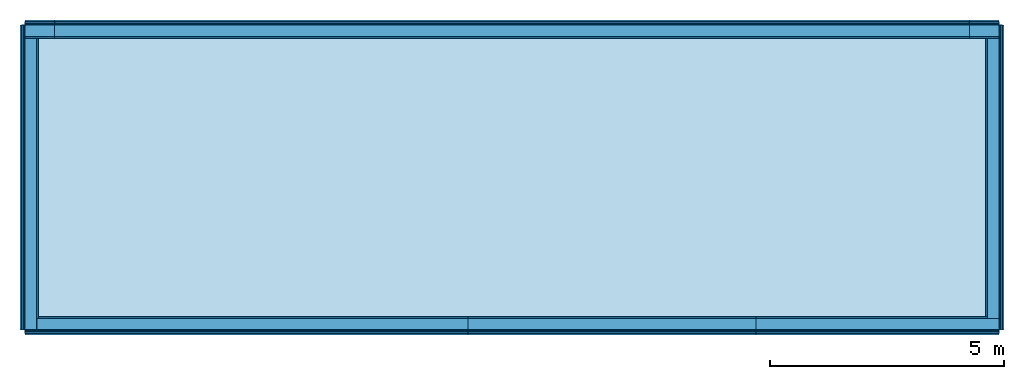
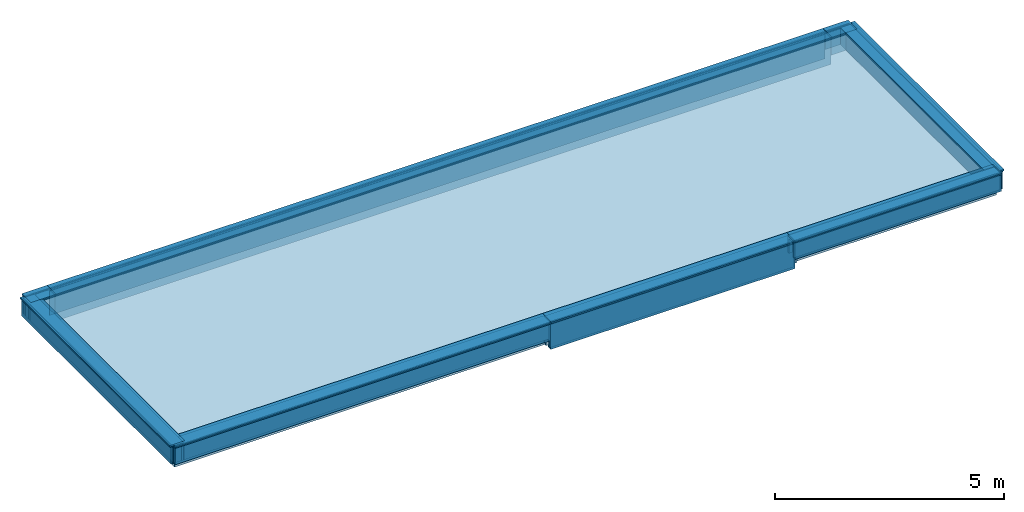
# One storey: 48 building element parts, 1 slab, 8 elements without a shape of their own.
"""IFC2X3 building model written with IfcOpenShell, lengths in millimetres."""

from ifc_helpers import new_model, entity, si_unit, converted_unit, money_unit, direction, frame, origin_with_axes, place, context, subcontext, project, spatial, polyline, outline, extrude, material, layer, layer_set, layer_usage, type_object, element, aggregate, save


model = new_model("IFC2X3")

# Units and contexts
model_context = context("Model", 3, precision=1e-05, world=origin_with_axes(), true_north=direction((0.0, 1.0)))
body_context = subcontext(model_context, "Body", "Model", "MODEL_VIEW")
ifc_project = project(units=[si_unit("LENGTHUNIT", "METRE", prefix="MILLI"), si_unit("AREAUNIT", "SQUARE_METRE"), si_unit("VOLUMEUNIT", "CUBIC_METRE"), converted_unit("PLANEANGLEUNIT", "DEGREE", entity("IfcPlaneAngleMeasure", 0.0174532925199), si_unit("PLANEANGLEUNIT", "RADIAN"), dimensions=[0, 0, 0, 0, 0, 0, 0]), si_unit("SOLIDANGLEUNIT", "STERADIAN"), money_unit("USD"), converted_unit("TIMEUNIT", "Year", entity("IfcTimeMeasure", 31556926.0), si_unit("TIMEUNIT", "SECOND"), dimensions=[0, 0, 0, 0, 0, 0, 0]), si_unit("MASSUNIT", "GRAM"), si_unit("THERMODYNAMICTEMPERATUREUNIT", "DEGREE_CELSIUS"), si_unit("LUMINOUSINTENSITYUNIT", "LUMEN")], contexts=[model_context])

# Site, building, storey
site_placement = place(None, origin_with_axes())
site = spatial("IfcSite", under=ifc_project, at=site_placement, Name="Grove Residential", CompositionType="ELEMENT")
building_placement = place(site_placement, origin_with_axes())
building = spatial("IfcBuilding", under=site, at=building_placement, Name="Building", CompositionType="ELEMENT")
storey_placement = place(building_placement, frame((0.0, 0.0, 6660.0), z_axis=(0.0, 0.0, 1.0), x_axis=(1.0, 0.0, 0.0)))
storey = spatial("IfcBuildingStorey", under=building, at=storey_placement, Name="Roof Level", CompositionType="ELEMENT", Elevation=6660.0)

# Slab
ifc_material_1 = material(Name="Gravel")
ifc_layer_1 = layer(ifc_material_1, 370.0, ventilated="UNKNOWN")
ifc_material_2 = material(Name="Screed")
ifc_layer_2 = layer(ifc_material_2, 50.0, ventilated="UNKNOWN")
ifc_material_3 = material(Name="Membrane - Rainproof")
ifc_layer_3 = layer(ifc_material_3, 10.0, ventilated="UNKNOWN")
ifc_material_4 = material(Name="Insulation - Plastic Soft")
ifc_layer_4 = layer(ifc_material_4, 50.0, ventilated="UNKNOWN")
ifc_material_5 = material(Name="Concrete - Structural")
ifc_layer_5 = layer(ifc_material_5, 100.0, ventilated="UNKNOWN")
ifc_layer_set = layer_set([ifc_layer_1, ifc_layer_2, ifc_layer_3, ifc_layer_4, ifc_layer_5], Name="IFS - 005")
ifc_layer_usage = layer_usage(ifc_layer_set, "AXIS3", "NEGATIVE", 580.0)
slab_type = type_object("IfcSlabType", Name="IFS - 005 580", PredefinedType="FLOOR")
slab_placement = place(storey_placement, frame((-8585.0, 1465.0, 370.0), z_axis=(0.0, 0.0, 1.0), x_axis=(1.0, 0.0, 0.0)))
element("IfcSlab", 1, at=slab_placement, inside=storey, type_object=slab_type, material=ifc_layer_usage, Name="SLA - 001", PredefinedType="FLOOR", context=body_context, shape_type="SweptSolid", body=[
    extrude(outline(polyline([(0.0, 0.0), (9335.0, 0.0), (9335.0, -50.0), (15660.0, -50.0), (15660.0, 0.0), (20720.0, 0.0), (20720.0, 6420.0), (0.0, 6420.0), (0.0, 0.0)])), frame((0.0, 0.0, -580.0), z_axis=(0.0, 0.0, 1.0), x_axis=(1.0, 0.0, 0.0)), (0.0, 0.0, 1.0), 580.0),
])

# Wall, building element parts
wall_type_1 = type_object("IfcWallType", Name="Parapet Wall 395 x 505", PredefinedType="NOTDEFINED")
wall_1_placement = place(storey_placement, frame((-8635.0, 7935.0, -60.0), z_axis=(0.0, 0.0, 1.0), x_axis=(1.0, 0.0, 0.0)))
wall_1 = element("IfcWall", 2, at=wall_1_placement, inside=storey, type_object=wall_type_1, Name="SW - 003")
ifc_material_6 = material(Name="Timber - Roof")
building_element_part_1_placement = place(wall_1_placement, origin_with_axes())
building_element_part_1 = element("IfcBuildingElementPart", 3, at=building_element_part_1_placement, material=ifc_material_6, Name="Timber - Roof", context=body_context, shape_type="SweptSolid", body=[
    extrude(outline(polyline([(-3.04764852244e-07, 455.0329326), (-3.04764852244e-07, 427.804075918), (25.0, 427.804075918), (25.0, 455.0329326), (-3.04764852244e-07, 455.0329326)])), frame((0.0, 0.0, 0.0), z_axis=(1.0, 0.0, 0.0), x_axis=(0.0, 1.0, 0.0)), (0.0, 0.0, 1.0), 635.0),
])
building_element_part_2_placement = place(wall_1_placement, origin_with_axes())
building_element_part_2 = element("IfcBuildingElementPart", 4, at=building_element_part_2_placement, material=ifc_material_4, Name="Insulation - Plastic Soft", context=body_context, shape_type="SweptSolid", body=[
    extrude(outline(polyline([(-250.0, 0.0), (-200.000001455, 0.0), (-200.000001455, 400.575220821), (-49.9999988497, 400.575220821), (-49.9999988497, 0.0), (-3.04764852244e-07, 0.0), (-3.04764852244e-07, 455.0329326), (-250.0, 455.0329326), (-250.0, 0.0)])), frame((0.0, 0.0, 0.0), z_axis=(1.0, 0.0, 0.0), x_axis=(0.0, 1.0, 0.0)), (0.0, 0.0, 1.0), 635.0),
])
ifc_material_7 = material(Name="Stone - Finish")
building_element_part_3_placement = place(wall_1_placement, origin_with_axes())
building_element_part_3 = element("IfcBuildingElementPart", 5, at=building_element_part_3_placement, material=ifc_material_7, Name="Stone - Finish", context=body_context, shape_type="SweptSolid", body=[
    extrude(outline(polyline([(104.999997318, 505.032931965), (-289.999999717, 505.032931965), (-289.999999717, 465.032934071), (-279.999999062, 465.032934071), (-279.999999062, 475.032934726), (-270.000003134, 475.032934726), (-270.000003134, 465.032934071), (84.9999960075, 465.032934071), (84.9999960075, 475.032934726), (94.9999966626, 475.032934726), (94.9999966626, 465.032934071), (104.999997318, 465.032934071), (104.999997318, 505.032931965)])), frame((0.0, 0.0, 0.0), z_axis=(1.0, 0.0, 0.0), x_axis=(0.0, 1.0, 0.0)), (0.0, 0.0, 1.0), 635.0),
])
building_element_part_4_placement = place(wall_1_placement, origin_with_axes())
building_element_part_4 = element("IfcBuildingElementPart", 6, at=building_element_part_4_placement, material=ifc_material_3, Name="Membrane - Rainproof", context=body_context, shape_type="SweptSolid", body=[
    extrude(outline(polyline([(74.9999937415, 465.032934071), (-260.000001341, 465.032934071), (-260.000001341, 0.0), (-250.0, 0.0), (-250.0, 455.0329326), (65.0, 455.0329326), (65.0, 444.141388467), (74.9999937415, 444.141388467), (74.9999937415, 465.032934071)])), frame((0.0, 0.0, 0.0), z_axis=(1.0, 0.0, 0.0), x_axis=(0.0, 1.0, 0.0)), (0.0, 0.0, 1.0), 635.0),
])
ifc_material_8 = material(Name="Timber - External Cladding")
building_element_part_5_placement = place(wall_1_placement, origin_with_axes())
building_element_part_5 = element("IfcBuildingElementPart", 7, at=building_element_part_5_placement, material=ifc_material_8, Name="Timber - External Cladding", context=body_context, shape_type="SweptSolid", body=[
    extrude(outline(polyline([(25.0, 0.0), (64.9999988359, 0.0), (64.9999848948, 455.0329326), (25.0, 455.0329326), (25.0, 0.0)])), frame((0.0, 0.0, 0.0), z_axis=(1.0, 0.0, 0.0), x_axis=(0.0, 1.0, 0.0)), (0.0, 0.0, 1.0), 635.0),
])
ifc_material_9 = material(Name="Air Space - Fixing Zone")
building_element_part_6_placement = place(wall_1_placement, origin_with_axes())
building_element_part_6 = element("IfcBuildingElementPart", 8, at=building_element_part_6_placement, material=ifc_material_9, Name="Air Space - Fixing Zone", context=body_context, shape_type="SweptSolid", body=[
    extrude(outline(polyline([(0.0, 0.0), (25.0, 0.0), (25.0, 427.804075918), (0.0, 427.804075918), (0.0, 0.0)])), frame((0.0, 0.0, 0.0), z_axis=(1.0, 0.0, 0.0), x_axis=(0.0, 1.0, 0.0)), (0.0, 0.0, 1.0), 635.0),
])
aggregate(wall_1, [building_element_part_1, building_element_part_2, building_element_part_3, building_element_part_4, building_element_part_5, building_element_part_6])

wall_2_placement = place(storey_placement, frame((12185.0, 7935.0, -60.0), z_axis=(0.0, 0.0, 1.0), x_axis=(0.0, -1.0, 0.0)))
wall_2 = element("IfcWall", 9, at=wall_2_placement, inside=storey, type_object=wall_type_1, Name="SW - 004")
building_element_part_7_placement = place(wall_2_placement, origin_with_axes())
building_element_part_7 = element("IfcBuildingElementPart", 10, at=building_element_part_7_placement, material=ifc_material_6, Name="Timber - Roof", context=body_context, shape_type="SweptSolid", body=[
    extrude(outline(polyline([(-3.04764852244e-07, 455.0329326), (-3.04764852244e-07, 427.804075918), (25.0, 427.804075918), (25.0, 455.0329326), (-3.04764852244e-07, 455.0329326)])), frame((0.0, 0.0, 0.0), z_axis=(1.0, 0.0, 0.0), x_axis=(0.0, 1.0, 0.0)), (0.0, 0.0, 1.0), 6520.0),
])
building_element_part_8_placement = place(wall_2_placement, origin_with_axes())
building_element_part_8 = element("IfcBuildingElementPart", 11, at=building_element_part_8_placement, material=ifc_material_4, Name="Insulation - Plastic Soft", context=body_context, shape_type="SweptSolid", body=[
    extrude(outline(polyline([(-250.0, 0.0), (-200.000001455, 0.0), (-200.000001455, 400.575220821), (-49.9999988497, 400.575220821), (-49.9999988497, 0.0), (-3.04764852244e-07, 0.0), (-3.04764852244e-07, 455.0329326), (-250.0, 455.0329326), (-250.0, 0.0)])), frame((0.0, 0.0, 0.0), z_axis=(1.0, 0.0, 0.0), x_axis=(0.0, 1.0, 0.0)), (0.0, 0.0, 1.0), 6520.0),
])
building_element_part_9_placement = place(wall_2_placement, origin_with_axes())
building_element_part_9 = element("IfcBuildingElementPart", 12, at=building_element_part_9_placement, material=ifc_material_7, Name="Stone - Finish", context=body_context, shape_type="SweptSolid", body=[
    extrude(outline(polyline([(104.999997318, 505.032931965), (-289.999999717, 505.032931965), (-289.999999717, 465.032934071), (-279.999999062, 465.032934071), (-279.999999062, 475.032934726), (-270.000003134, 475.032934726), (-270.000003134, 465.032934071), (84.9999960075, 465.032934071), (84.9999960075, 475.032934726), (94.9999966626, 475.032934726), (94.9999966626, 465.032934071), (104.999997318, 465.032934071), (104.999997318, 505.032931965)])), frame((0.0, 0.0, 0.0), z_axis=(1.0, 0.0, 0.0), x_axis=(0.0, 1.0, 0.0)), (0.0, 0.0, 1.0), 6520.0),
])
building_element_part_10_placement = place(wall_2_placement, origin_with_axes())
building_element_part_10 = element("IfcBuildingElementPart", 13, at=building_element_part_10_placement, material=ifc_material_3, Name="Membrane - Rainproof", context=body_context, shape_type="SweptSolid", body=[
    extrude(outline(polyline([(74.9999937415, 465.032934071), (-260.000001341, 465.032934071), (-260.000001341, 0.0), (-250.0, 0.0), (-250.0, 455.0329326), (65.0, 455.0329326), (65.0, 444.141388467), (74.9999937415, 444.141388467), (74.9999937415, 465.032934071)])), frame((0.0, 0.0, 0.0), z_axis=(1.0, 0.0, 0.0), x_axis=(0.0, 1.0, 0.0)), (0.0, 0.0, 1.0), 6520.0),
])
building_element_part_11_placement = place(wall_2_placement, origin_with_axes())
building_element_part_11 = element("IfcBuildingElementPart", 14, at=building_element_part_11_placement, material=ifc_material_8, Name="Timber - External Cladding", context=body_context, shape_type="SweptSolid", body=[
    extrude(outline(polyline([(25.0, 0.0), (64.9999988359, 0.0), (64.9999848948, 455.0329326), (25.0, 455.0329326), (25.0, 0.0)])), frame((0.0, 0.0, 0.0), z_axis=(1.0, 0.0, 0.0), x_axis=(0.0, 1.0, 0.0)), (0.0, 0.0, 1.0), 6520.0),
])
building_element_part_12_placement = place(wall_2_placement, origin_with_axes())
building_element_part_12 = element("IfcBuildingElementPart", 15, at=building_element_part_12_placement, material=ifc_material_9, Name="Air Space - Fixing Zone", context=body_context, shape_type="SweptSolid", body=[
    extrude(outline(polyline([(0.0, 0.0), (25.0, 0.0), (25.0, 427.804075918), (0.0, 427.804075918), (0.0, 0.0)])), frame((0.0, 0.0, 0.0), z_axis=(1.0, 0.0, 0.0), x_axis=(0.0, 1.0, 0.0)), (0.0, 0.0, 1.0), 6520.0),
])
aggregate(wall_2, [building_element_part_7, building_element_part_8, building_element_part_9, building_element_part_10, building_element_part_11, building_element_part_12])

wall_3_placement = place(storey_placement, frame((12185.0, 1415.0, -60.0), z_axis=(0.0, 0.0, 1.0), x_axis=(-1.0, 0.0, 0.0)))
wall_3 = element("IfcWall", 16, at=wall_3_placement, inside=storey, type_object=wall_type_1, Name="SW - 005")
building_element_part_13_placement = place(wall_3_placement, origin_with_axes())
building_element_part_13 = element("IfcBuildingElementPart", 17, at=building_element_part_13_placement, material=ifc_material_6, Name="Timber - Roof", context=body_context, shape_type="SweptSolid", body=[
    extrude(outline(polyline([(-3.04764852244e-07, 455.0329326), (-3.04764852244e-07, 427.804075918), (25.0, 427.804075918), (25.0, 455.0329326), (-3.04764852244e-07, 455.0329326)])), frame((0.0, 0.0, 0.0), z_axis=(1.0, 0.0, 0.0), x_axis=(0.0, 1.0, 0.0)), (0.0, 0.0, 1.0), 5200.00004406),
])
building_element_part_14_placement = place(wall_3_placement, origin_with_axes())
building_element_part_14 = element("IfcBuildingElementPart", 18, at=building_element_part_14_placement, material=ifc_material_4, Name="Insulation - Plastic Soft", context=body_context, shape_type="SweptSolid", body=[
    extrude(outline(polyline([(-250.0, 0.0), (-200.000001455, 0.0), (-200.000001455, 400.575220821), (-49.9999988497, 400.575220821), (-49.9999988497, 0.0), (-3.04764852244e-07, 0.0), (-3.04764852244e-07, 455.0329326), (-250.0, 455.0329326), (-250.0, 0.0)])), frame((0.0, 0.0, 0.0), z_axis=(1.0, 0.0, 0.0), x_axis=(0.0, 1.0, 0.0)), (0.0, 0.0, 1.0), 5200.00004406),
])
building_element_part_15_placement = place(wall_3_placement, origin_with_axes())
building_element_part_15 = element("IfcBuildingElementPart", 19, at=building_element_part_15_placement, material=ifc_material_7, Name="Stone - Finish", context=body_context, shape_type="SweptSolid", body=[
    extrude(outline(polyline([(104.999997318, 505.032931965), (-289.999999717, 505.032931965), (-289.999999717, 465.032934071), (-279.999999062, 465.032934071), (-279.999999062, 475.032934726), (-270.000003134, 475.032934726), (-270.000003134, 465.032934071), (84.9999960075, 465.032934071), (84.9999960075, 475.032934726), (94.9999966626, 475.032934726), (94.9999966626, 465.032934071), (104.999997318, 465.032934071), (104.999997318, 505.032931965)])), frame((0.0, 0.0, 0.0), z_axis=(1.0, 0.0, 0.0), x_axis=(0.0, 1.0, 0.0)), (0.0, 0.0, 1.0), 5200.00004406),
])
building_element_part_16_placement = place(wall_3_placement, origin_with_axes())
building_element_part_16 = element("IfcBuildingElementPart", 20, at=building_element_part_16_placement, material=ifc_material_3, Name="Membrane - Rainproof", context=body_context, shape_type="SweptSolid", body=[
    extrude(outline(polyline([(74.9999937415, 465.032934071), (-260.000001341, 465.032934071), (-260.000001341, 0.0), (-250.0, 0.0), (-250.0, 455.0329326), (65.0, 455.0329326), (65.0, 444.141388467), (74.9999937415, 444.141388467), (74.9999937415, 465.032934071)])), frame((0.0, 0.0, 0.0), z_axis=(1.0, 0.0, 0.0), x_axis=(0.0, 1.0, 0.0)), (0.0, 0.0, 1.0), 5200.00004406),
])
building_element_part_17_placement = place(wall_3_placement, origin_with_axes())
building_element_part_17 = element("IfcBuildingElementPart", 21, at=building_element_part_17_placement, material=ifc_material_8, Name="Timber - External Cladding", context=body_context, shape_type="SweptSolid", body=[
    extrude(outline(polyline([(25.0, 0.0), (64.9999988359, 0.0), (64.9999848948, 455.0329326), (25.0, 455.0329326), (25.0, 0.0)])), frame((0.0, 0.0, 0.0), z_axis=(1.0, 0.0, 0.0), x_axis=(0.0, 1.0, 0.0)), (0.0, 0.0, 1.0), 5200.00004406),
])
building_element_part_18_placement = place(wall_3_placement, origin_with_axes())
building_element_part_18 = element("IfcBuildingElementPart", 22, at=building_element_part_18_placement, material=ifc_material_9, Name="Air Space - Fixing Zone", context=body_context, shape_type="SweptSolid", body=[
    extrude(outline(polyline([(0.0, 0.0), (25.0, 0.0), (25.0, 427.804075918), (0.0, 427.804075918), (0.0, 0.0)])), frame((0.0, 0.0, 0.0), z_axis=(1.0, 0.0, 0.0), x_axis=(0.0, 1.0, 0.0)), (0.0, 0.0, 1.0), 5200.00004406),
])
aggregate(wall_3, [building_element_part_13, building_element_part_14, building_element_part_15, building_element_part_16, building_element_part_17, building_element_part_18])

wall_4_placement = place(storey_placement, frame((829.999982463, 1415.0, -60.0), z_axis=(0.0, 0.0, 1.0), x_axis=(-1.0, 0.0, 0.0)))
wall_4 = element("IfcWall", 23, at=wall_4_placement, inside=storey, type_object=wall_type_1, Name="SW - 005")
building_element_part_19_placement = place(wall_4_placement, origin_with_axes())
building_element_part_19 = element("IfcBuildingElementPart", 24, at=building_element_part_19_placement, material=ifc_material_6, Name="Timber - Roof", context=body_context, shape_type="SweptSolid", body=[
    extrude(outline(polyline([(-3.04764852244e-07, 455.0329326), (-3.04764852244e-07, 427.804075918), (25.0, 427.804075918), (25.0, 455.0329326), (-3.04764852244e-07, 455.0329326)])), frame((0.0, 0.0, 0.0), z_axis=(1.0, 0.0, 0.0), x_axis=(0.0, 1.0, 0.0)), (0.0, 0.0, 1.0), 9464.99998246),
])
building_element_part_20_placement = place(wall_4_placement, origin_with_axes())
building_element_part_20 = element("IfcBuildingElementPart", 25, at=building_element_part_20_placement, material=ifc_material_4, Name="Insulation - Plastic Soft", context=body_context, shape_type="SweptSolid", body=[
    extrude(outline(polyline([(-250.0, 0.0), (-200.000001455, 0.0), (-200.000001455, 400.575220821), (-49.9999988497, 400.575220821), (-49.9999988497, 0.0), (-3.04764852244e-07, 0.0), (-3.04764852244e-07, 455.0329326), (-250.0, 455.0329326), (-250.0, 0.0)])), frame((0.0, 0.0, 0.0), z_axis=(1.0, 0.0, 0.0), x_axis=(0.0, 1.0, 0.0)), (0.0, 0.0, 1.0), 9464.99998246),
])
building_element_part_21_placement = place(wall_4_placement, origin_with_axes())
building_element_part_21 = element("IfcBuildingElementPart", 26, at=building_element_part_21_placement, material=ifc_material_7, Name="Stone - Finish", context=body_context, shape_type="SweptSolid", body=[
    extrude(outline(polyline([(104.999997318, 505.032931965), (-289.999999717, 505.032931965), (-289.999999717, 465.032934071), (-279.999999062, 465.032934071), (-279.999999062, 475.032934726), (-270.000003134, 475.032934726), (-270.000003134, 465.032934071), (84.9999960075, 465.032934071), (84.9999960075, 475.032934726), (94.9999966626, 475.032934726), (94.9999966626, 465.032934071), (104.999997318, 465.032934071), (104.999997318, 505.032931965)])), frame((0.0, 0.0, 0.0), z_axis=(1.0, 0.0, 0.0), x_axis=(0.0, 1.0, 0.0)), (0.0, 0.0, 1.0), 9464.99998246),
])
building_element_part_22_placement = place(wall_4_placement, origin_with_axes())
building_element_part_22 = element("IfcBuildingElementPart", 27, at=building_element_part_22_placement, material=ifc_material_3, Name="Membrane - Rainproof", context=body_context, shape_type="SweptSolid", body=[
    extrude(outline(polyline([(74.9999937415, 465.032934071), (-260.000001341, 465.032934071), (-260.000001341, 0.0), (-250.0, 0.0), (-250.0, 455.0329326), (65.0, 455.0329326), (65.0, 444.141388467), (74.9999937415, 444.141388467), (74.9999937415, 465.032934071)])), frame((0.0, 0.0, 0.0), z_axis=(1.0, 0.0, 0.0), x_axis=(0.0, 1.0, 0.0)), (0.0, 0.0, 1.0), 9464.99998246),
])
building_element_part_23_placement = place(wall_4_placement, origin_with_axes())
building_element_part_23 = element("IfcBuildingElementPart", 28, at=building_element_part_23_placement, material=ifc_material_8, Name="Timber - External Cladding", context=body_context, shape_type="SweptSolid", body=[
    extrude(outline(polyline([(25.0, 0.0), (64.9999988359, 0.0), (64.9999848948, 455.0329326), (25.0, 455.0329326), (25.0, 0.0)])), frame((0.0, 0.0, 0.0), z_axis=(1.0, 0.0, 0.0), x_axis=(0.0, 1.0, 0.0)), (0.0, 0.0, 1.0), 9464.99998246),
])
building_element_part_24_placement = place(wall_4_placement, origin_with_axes())
building_element_part_24 = element("IfcBuildingElementPart", 29, at=building_element_part_24_placement, material=ifc_material_9, Name="Air Space - Fixing Zone", context=body_context, shape_type="SweptSolid", body=[
    extrude(outline(polyline([(0.0, 0.0), (25.0, 0.0), (25.0, 427.804075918), (0.0, 427.804075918), (0.0, 0.0)])), frame((0.0, 0.0, 0.0), z_axis=(1.0, 0.0, 0.0), x_axis=(0.0, 1.0, 0.0)), (0.0, 0.0, 1.0), 9464.99998246),
])
aggregate(wall_4, [building_element_part_19, building_element_part_20, building_element_part_21, building_element_part_22, building_element_part_23, building_element_part_24])

wall_type_2 = type_object("IfcWallType", Name="Parapet Wall 395 x 745", PredefinedType="NOTDEFINED")
wall_5_placement = place(storey_placement, frame((6984.99995594, 1415.0, -300.0), z_axis=(0.0, 0.0, 1.0), x_axis=(-1.0, 0.0, 0.0)))
wall_5 = element("IfcWall", 30, at=wall_5_placement, inside=storey, type_object=wall_type_2, Name="SW - 005")
building_element_part_25_placement = place(wall_5_placement, origin_with_axes())
building_element_part_25 = element("IfcBuildingElementPart", 31, at=building_element_part_25_placement, material=ifc_material_6, Name="Timber - Roof", context=body_context, shape_type="SweptSolid", body=[
    extrude(outline(polyline([(-3.04764852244e-07, 695.032931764), (-3.04764852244e-07, 653.442640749), (25.0, 653.442640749), (25.0, 695.032931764), (-3.04764852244e-07, 695.032931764)])), frame((0.0, 0.0, 0.0), z_axis=(1.0, 0.0, 0.0), x_axis=(0.0, 1.0, 0.0)), (0.0, 0.0, 1.0), 6154.99997347),
])
building_element_part_26_placement = place(wall_5_placement, origin_with_axes())
building_element_part_26 = element("IfcBuildingElementPart", 32, at=building_element_part_26_placement, material=ifc_material_4, Name="Insulation - Plastic Soft", context=body_context, shape_type="SweptSolid", body=[
    extrude(outline(polyline([(-250.0, 0.0), (-200.000001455, 0.0), (-200.000001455, 611.852352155), (-49.9999988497, 611.852352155), (-49.9999988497, 0.0), (-3.04764852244e-07, 0.0), (-3.04764852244e-07, 695.032931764), (-250.0, 695.032931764), (-250.0, 0.0)])), frame((0.0, 0.0, 0.0), z_axis=(1.0, 0.0, 0.0), x_axis=(0.0, 1.0, 0.0)), (0.0, 0.0, 1.0), 6154.99997347),
])
building_element_part_27_placement = place(wall_5_placement, origin_with_axes())
building_element_part_27 = element("IfcBuildingElementPart", 33, at=building_element_part_27_placement, material=ifc_material_7, Name="Stone - Finish", context=body_context, shape_type="SweptSolid", body=[
    extrude(outline(polyline([(104.999997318, 745.032931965), (-289.999999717, 745.032931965), (-289.999999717, 705.032934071), (-279.999999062, 705.032934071), (-279.999999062, 715.032934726), (-270.000003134, 715.032934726), (-270.000003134, 705.032934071), (84.9999960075, 705.032934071), (84.9999960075, 715.032934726), (94.9999966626, 715.032934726), (94.9999966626, 705.032934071), (104.999997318, 705.032934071), (104.999997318, 745.032931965)])), frame((0.0, 0.0, 0.0), z_axis=(1.0, 0.0, 0.0), x_axis=(0.0, 1.0, 0.0)), (0.0, 0.0, 1.0), 6154.99997347),
])
building_element_part_28_placement = place(wall_5_placement, origin_with_axes())
building_element_part_28 = element("IfcBuildingElementPart", 34, at=building_element_part_28_placement, material=ifc_material_3, Name="Membrane - Rainproof", context=body_context, shape_type="SweptSolid", body=[
    extrude(outline(polyline([(74.9999937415, 705.032934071), (-260.000001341, 705.032934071), (-260.000001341, 0.0), (-250.0, 0.0), (-250.0, 695.032931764), (65.0, 695.032931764), (65.0, 678.396813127), (74.9999937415, 678.396813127), (74.9999937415, 705.032934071)])), frame((0.0, 0.0, 0.0), z_axis=(1.0, 0.0, 0.0), x_axis=(0.0, 1.0, 0.0)), (0.0, 0.0, 1.0), 6154.99997347),
])
building_element_part_29_placement = place(wall_5_placement, origin_with_axes())
building_element_part_29 = element("IfcBuildingElementPart", 35, at=building_element_part_29_placement, material=ifc_material_8, Name="Timber - External Cladding", context=body_context, shape_type="SweptSolid", body=[
    extrude(outline(polyline([(25.0, 0.0), (64.9999988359, 0.0), (64.9999848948, 695.032931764), (25.0, 695.032931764), (25.0, 0.0)])), frame((0.0, 0.0, 0.0), z_axis=(1.0, 0.0, 0.0), x_axis=(0.0, 1.0, 0.0)), (0.0, 0.0, 1.0), 6154.99997347),
])
building_element_part_30_placement = place(wall_5_placement, origin_with_axes())
building_element_part_30 = element("IfcBuildingElementPart", 36, at=building_element_part_30_placement, material=ifc_material_9, Name="Air Space - Fixing Zone", context=body_context, shape_type="SweptSolid", body=[
    extrude(outline(polyline([(0.0, 0.0), (25.0, 0.0), (25.0, 653.442640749), (0.0, 653.442640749), (0.0, 0.0)])), frame((0.0, 0.0, 0.0), z_axis=(1.0, 0.0, 0.0), x_axis=(0.0, 1.0, 0.0)), (0.0, 0.0, 1.0), 6154.99997347),
])
aggregate(wall_5, [building_element_part_25, building_element_part_26, building_element_part_27, building_element_part_28, building_element_part_29, building_element_part_30])

wall_6_placement = place(storey_placement, frame((-8634.9999971, 1415.0, -60.0), z_axis=(0.0, 0.0, 1.0), x_axis=(0.0, 1.0, 0.0)))
wall_6 = element("IfcWall", 37, at=wall_6_placement, inside=storey, type_object=wall_type_1, Name="SW - 002")
building_element_part_31_placement = place(wall_6_placement, origin_with_axes())
building_element_part_31 = element("IfcBuildingElementPart", 38, at=building_element_part_31_placement, material=ifc_material_6, Name="Timber - Roof", context=body_context, shape_type="SweptSolid", body=[
    extrude(outline(polyline([(-3.04764852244e-07, 455.0329326), (-3.04764852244e-07, 427.804075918), (25.0, 427.804075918), (25.0, 455.0329326), (-3.04764852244e-07, 455.0329326)])), frame((0.0, 0.0, 0.0), z_axis=(1.0, 0.0, 0.0), x_axis=(0.0, 1.0, 0.0)), (0.0, 0.0, 1.0), 6520.0),
])
building_element_part_32_placement = place(wall_6_placement, origin_with_axes())
building_element_part_32 = element("IfcBuildingElementPart", 39, at=building_element_part_32_placement, material=ifc_material_4, Name="Insulation - Plastic Soft", context=body_context, shape_type="SweptSolid", body=[
    extrude(outline(polyline([(-250.0, 0.0), (-200.000001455, 0.0), (-200.000001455, 400.575220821), (-49.9999988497, 400.575220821), (-49.9999988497, 0.0), (-3.04764852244e-07, 0.0), (-3.04764852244e-07, 455.0329326), (-250.0, 455.0329326), (-250.0, 0.0)])), frame((0.0, 0.0, 0.0), z_axis=(1.0, 0.0, 0.0), x_axis=(0.0, 1.0, 0.0)), (0.0, 0.0, 1.0), 6520.0),
])
building_element_part_33_placement = place(wall_6_placement, origin_with_axes())
building_element_part_33 = element("IfcBuildingElementPart", 40, at=building_element_part_33_placement, material=ifc_material_7, Name="Stone - Finish", context=body_context, shape_type="SweptSolid", body=[
    extrude(outline(polyline([(104.999997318, 505.032931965), (-289.999999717, 505.032931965), (-289.999999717, 465.032934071), (-279.999999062, 465.032934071), (-279.999999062, 475.032934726), (-270.000003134, 475.032934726), (-270.000003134, 465.032934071), (84.9999960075, 465.032934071), (84.9999960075, 475.032934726), (94.9999966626, 475.032934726), (94.9999966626, 465.032934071), (104.999997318, 465.032934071), (104.999997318, 505.032931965)])), frame((0.0, 0.0, 0.0), z_axis=(1.0, 0.0, 0.0), x_axis=(0.0, 1.0, 0.0)), (0.0, 0.0, 1.0), 6520.0),
])
building_element_part_34_placement = place(wall_6_placement, origin_with_axes())
building_element_part_34 = element("IfcBuildingElementPart", 41, at=building_element_part_34_placement, material=ifc_material_3, Name="Membrane - Rainproof", context=body_context, shape_type="SweptSolid", body=[
    extrude(outline(polyline([(74.9999937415, 465.032934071), (-260.000001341, 465.032934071), (-260.000001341, 0.0), (-250.0, 0.0), (-250.0, 455.0329326), (65.0, 455.0329326), (65.0, 444.141388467), (74.9999937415, 444.141388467), (74.9999937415, 465.032934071)])), frame((0.0, 0.0, 0.0), z_axis=(1.0, 0.0, 0.0), x_axis=(0.0, 1.0, 0.0)), (0.0, 0.0, 1.0), 6520.0),
])
building_element_part_35_placement = place(wall_6_placement, origin_with_axes())
building_element_part_35 = element("IfcBuildingElementPart", 42, at=building_element_part_35_placement, material=ifc_material_8, Name="Timber - External Cladding", context=body_context, shape_type="SweptSolid", body=[
    extrude(outline(polyline([(25.0, 0.0), (64.9999988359, 0.0), (64.9999848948, 455.0329326), (25.0, 455.0329326), (25.0, 0.0)])), frame((0.0, 0.0, 0.0), z_axis=(1.0, 0.0, 0.0), x_axis=(0.0, 1.0, 0.0)), (0.0, 0.0, 1.0), 6520.0),
])
building_element_part_36_placement = place(wall_6_placement, origin_with_axes())
building_element_part_36 = element("IfcBuildingElementPart", 43, at=building_element_part_36_placement, material=ifc_material_9, Name="Air Space - Fixing Zone", context=body_context, shape_type="SweptSolid", body=[
    extrude(outline(polyline([(0.0, 0.0), (25.0, 0.0), (25.0, 427.804075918), (0.0, 427.804075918), (0.0, 0.0)])), frame((0.0, 0.0, 0.0), z_axis=(1.0, 0.0, 0.0), x_axis=(0.0, 1.0, 0.0)), (0.0, 0.0, 1.0), 6520.0),
])
aggregate(wall_6, [building_element_part_31, building_element_part_32, building_element_part_33, building_element_part_34, building_element_part_35, building_element_part_36])

wall_7_placement = place(storey_placement, frame((-8000.0, 7935.0, -300.0), z_axis=(0.0, 0.0, 1.0), x_axis=(1.0, 0.0, 0.0)))
wall_7 = element("IfcWall", 44, at=wall_7_placement, inside=storey, type_object=wall_type_2, Name="SW - 003")
building_element_part_37_placement = place(wall_7_placement, origin_with_axes())
building_element_part_37 = element("IfcBuildingElementPart", 45, at=building_element_part_37_placement, material=ifc_material_6, Name="Timber - Roof", context=body_context, shape_type="SweptSolid", body=[
    extrude(outline(polyline([(-3.04764852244e-07, 695.032931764), (-3.04764852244e-07, 653.442640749), (25.0, 653.442640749), (25.0, 695.032931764), (-3.04764852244e-07, 695.032931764)])), frame((0.0, 0.0, 0.0), z_axis=(1.0, 0.0, 0.0), x_axis=(0.0, 1.0, 0.0)), (0.0, 0.0, 1.0), 19550.0),
])
building_element_part_38_placement = place(wall_7_placement, origin_with_axes())
building_element_part_38 = element("IfcBuildingElementPart", 46, at=building_element_part_38_placement, material=ifc_material_4, Name="Insulation - Plastic Soft", context=body_context, shape_type="SweptSolid", body=[
    extrude(outline(polyline([(-250.0, 0.0), (-200.000001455, 0.0), (-200.000001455, 611.852352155), (-49.9999988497, 611.852352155), (-49.9999988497, 0.0), (-3.04764852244e-07, 0.0), (-3.04764852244e-07, 695.032931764), (-250.0, 695.032931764), (-250.0, 0.0)])), frame((0.0, 0.0, 0.0), z_axis=(1.0, 0.0, 0.0), x_axis=(0.0, 1.0, 0.0)), (0.0, 0.0, 1.0), 19550.0),
])
building_element_part_39_placement = place(wall_7_placement, origin_with_axes())
building_element_part_39 = element("IfcBuildingElementPart", 47, at=building_element_part_39_placement, material=ifc_material_7, Name="Stone - Finish", context=body_context, shape_type="SweptSolid", body=[
    extrude(outline(polyline([(104.999997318, 745.032931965), (-289.999999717, 745.032931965), (-289.999999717, 705.032934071), (-279.999999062, 705.032934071), (-279.999999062, 715.032934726), (-270.000003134, 715.032934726), (-270.000003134, 705.032934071), (84.9999960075, 705.032934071), (84.9999960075, 715.032934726), (94.9999966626, 715.032934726), (94.9999966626, 705.032934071), (104.999997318, 705.032934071), (104.999997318, 745.032931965)])), frame((0.0, 0.0, 0.0), z_axis=(1.0, 0.0, 0.0), x_axis=(0.0, 1.0, 0.0)), (0.0, 0.0, 1.0), 19550.0),
])
building_element_part_40_placement = place(wall_7_placement, origin_with_axes())
building_element_part_40 = element("IfcBuildingElementPart", 48, at=building_element_part_40_placement, material=ifc_material_3, Name="Membrane - Rainproof", context=body_context, shape_type="SweptSolid", body=[
    extrude(outline(polyline([(74.9999937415, 705.032934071), (-260.000001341, 705.032934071), (-260.000001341, 0.0), (-250.0, 0.0), (-250.0, 695.032931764), (65.0, 695.032931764), (65.0, 678.396813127), (74.9999937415, 678.396813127), (74.9999937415, 705.032934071)])), frame((0.0, 0.0, 0.0), z_axis=(1.0, 0.0, 0.0), x_axis=(0.0, 1.0, 0.0)), (0.0, 0.0, 1.0), 19550.0),
])
building_element_part_41_placement = place(wall_7_placement, origin_with_axes())
building_element_part_41 = element("IfcBuildingElementPart", 49, at=building_element_part_41_placement, material=ifc_material_8, Name="Timber - External Cladding", context=body_context, shape_type="SweptSolid", body=[
    extrude(outline(polyline([(25.0, 0.0), (64.9999988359, 0.0), (64.9999848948, 695.032931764), (25.0, 695.032931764), (25.0, 0.0)])), frame((0.0, 0.0, 0.0), z_axis=(1.0, 0.0, 0.0), x_axis=(0.0, 1.0, 0.0)), (0.0, 0.0, 1.0), 19550.0),
])
building_element_part_42_placement = place(wall_7_placement, origin_with_axes())
building_element_part_42 = element("IfcBuildingElementPart", 50, at=building_element_part_42_placement, material=ifc_material_9, Name="Air Space - Fixing Zone", context=body_context, shape_type="SweptSolid", body=[
    extrude(outline(polyline([(0.0, 0.0), (25.0, 0.0), (25.0, 653.442640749), (0.0, 653.442640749), (0.0, 0.0)])), frame((0.0, 0.0, 0.0), z_axis=(1.0, 0.0, 0.0), x_axis=(0.0, 1.0, 0.0)), (0.0, 0.0, 1.0), 19550.0),
])
aggregate(wall_7, [building_element_part_37, building_element_part_38, building_element_part_39, building_element_part_40, building_element_part_41, building_element_part_42])

wall_8_placement = place(storey_placement, frame((11550.0, 7935.0, -60.0), z_axis=(0.0, 0.0, 1.0), x_axis=(1.0, 0.0, 0.0)))
wall_8 = element("IfcWall", 51, at=wall_8_placement, inside=storey, type_object=wall_type_1, Name="SW - 003")
building_element_part_43_placement = place(wall_8_placement, origin_with_axes())
building_element_part_43 = element("IfcBuildingElementPart", 52, at=building_element_part_43_placement, material=ifc_material_6, Name="Timber - Roof", context=body_context, shape_type="SweptSolid", body=[
    extrude(outline(polyline([(-3.04764852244e-07, 455.0329326), (-3.04764852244e-07, 427.804075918), (25.0, 427.804075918), (25.0, 455.0329326), (-3.04764852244e-07, 455.0329326)])), frame((0.0, 0.0, 0.0), z_axis=(1.0, 0.0, 0.0), x_axis=(0.0, 1.0, 0.0)), (0.0, 0.0, 1.0), 635.0),
])
building_element_part_44_placement = place(wall_8_placement, origin_with_axes())
building_element_part_44 = element("IfcBuildingElementPart", 53, at=building_element_part_44_placement, material=ifc_material_4, Name="Insulation - Plastic Soft", context=body_context, shape_type="SweptSolid", body=[
    extrude(outline(polyline([(-250.0, 0.0), (-200.000001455, 0.0), (-200.000001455, 400.575220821), (-49.9999988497, 400.575220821), (-49.9999988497, 0.0), (-3.04764852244e-07, 0.0), (-3.04764852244e-07, 455.0329326), (-250.0, 455.0329326), (-250.0, 0.0)])), frame((0.0, 0.0, 0.0), z_axis=(1.0, 0.0, 0.0), x_axis=(0.0, 1.0, 0.0)), (0.0, 0.0, 1.0), 635.0),
])
building_element_part_45_placement = place(wall_8_placement, origin_with_axes())
building_element_part_45 = element("IfcBuildingElementPart", 54, at=building_element_part_45_placement, material=ifc_material_7, Name="Stone - Finish", context=body_context, shape_type="SweptSolid", body=[
    extrude(outline(polyline([(104.999997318, 505.032931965), (-289.999999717, 505.032931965), (-289.999999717, 465.032934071), (-279.999999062, 465.032934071), (-279.999999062, 475.032934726), (-270.000003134, 475.032934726), (-270.000003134, 465.032934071), (84.9999960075, 465.032934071), (84.9999960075, 475.032934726), (94.9999966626, 475.032934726), (94.9999966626, 465.032934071), (104.999997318, 465.032934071), (104.999997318, 505.032931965)])), frame((0.0, 0.0, 0.0), z_axis=(1.0, 0.0, 0.0), x_axis=(0.0, 1.0, 0.0)), (0.0, 0.0, 1.0), 635.0),
])
building_element_part_46_placement = place(wall_8_placement, origin_with_axes())
building_element_part_46 = element("IfcBuildingElementPart", 55, at=building_element_part_46_placement, material=ifc_material_3, Name="Membrane - Rainproof", context=body_context, shape_type="SweptSolid", body=[
    extrude(outline(polyline([(74.9999937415, 465.032934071), (-260.000001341, 465.032934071), (-260.000001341, 0.0), (-250.0, 0.0), (-250.0, 455.0329326), (65.0, 455.0329326), (65.0, 444.141388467), (74.9999937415, 444.141388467), (74.9999937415, 465.032934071)])), frame((0.0, 0.0, 0.0), z_axis=(1.0, 0.0, 0.0), x_axis=(0.0, 1.0, 0.0)), (0.0, 0.0, 1.0), 635.0),
])
building_element_part_47_placement = place(wall_8_placement, origin_with_axes())
building_element_part_47 = element("IfcBuildingElementPart", 56, at=building_element_part_47_placement, material=ifc_material_8, Name="Timber - External Cladding", context=body_context, shape_type="SweptSolid", body=[
    extrude(outline(polyline([(25.0, 0.0), (64.9999988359, 0.0), (64.9999848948, 455.0329326), (25.0, 455.0329326), (25.0, 0.0)])), frame((0.0, 0.0, 0.0), z_axis=(1.0, 0.0, 0.0), x_axis=(0.0, 1.0, 0.0)), (0.0, 0.0, 1.0), 635.0),
])
building_element_part_48_placement = place(wall_8_placement, origin_with_axes())
building_element_part_48 = element("IfcBuildingElementPart", 57, at=building_element_part_48_placement, material=ifc_material_9, Name="Air Space - Fixing Zone", context=body_context, shape_type="SweptSolid", body=[
    extrude(outline(polyline([(0.0, 0.0), (25.0, 0.0), (25.0, 427.804075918), (0.0, 427.804075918), (0.0, 0.0)])), frame((0.0, 0.0, 0.0), z_axis=(1.0, 0.0, 0.0), x_axis=(0.0, 1.0, 0.0)), (0.0, 0.0, 1.0), 635.0),
])
aggregate(wall_8, [building_element_part_43, building_element_part_44, building_element_part_45, building_element_part_46, building_element_part_47, building_element_part_48])

save(model, "model.ifc")
